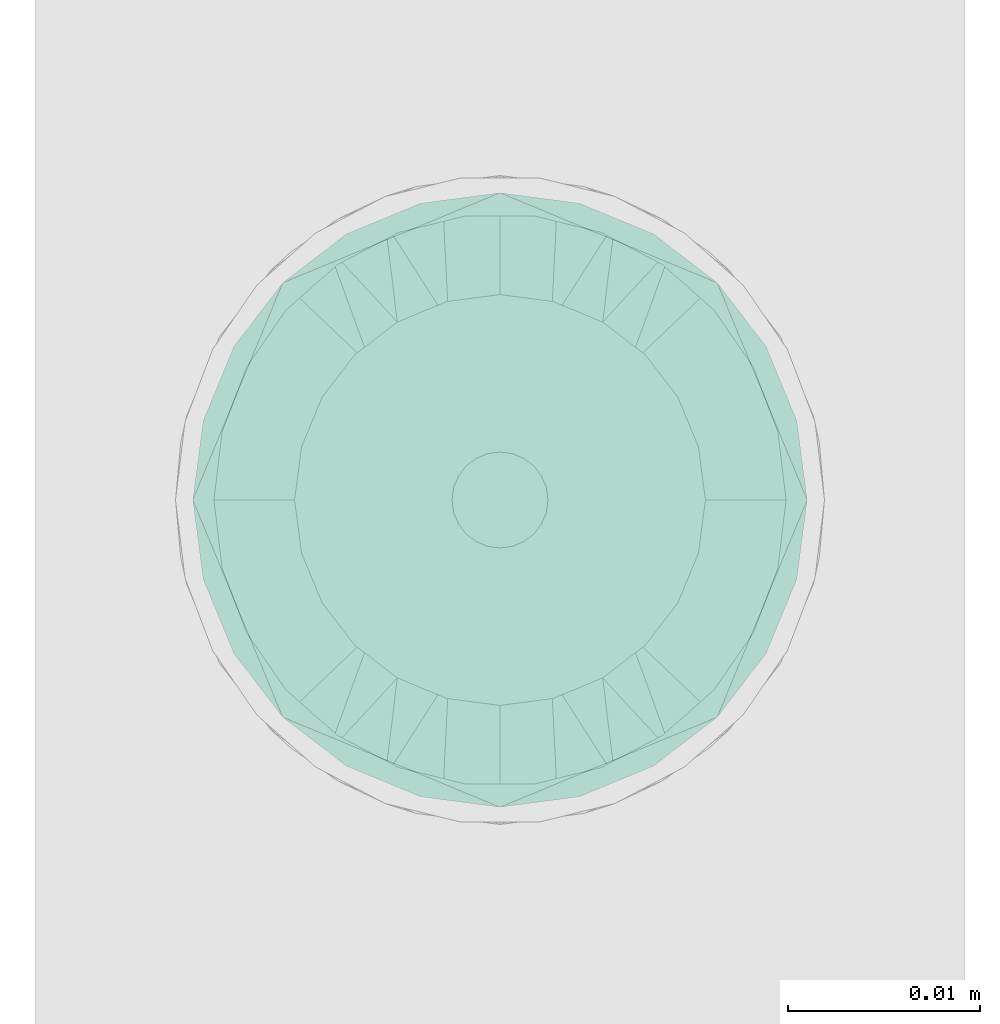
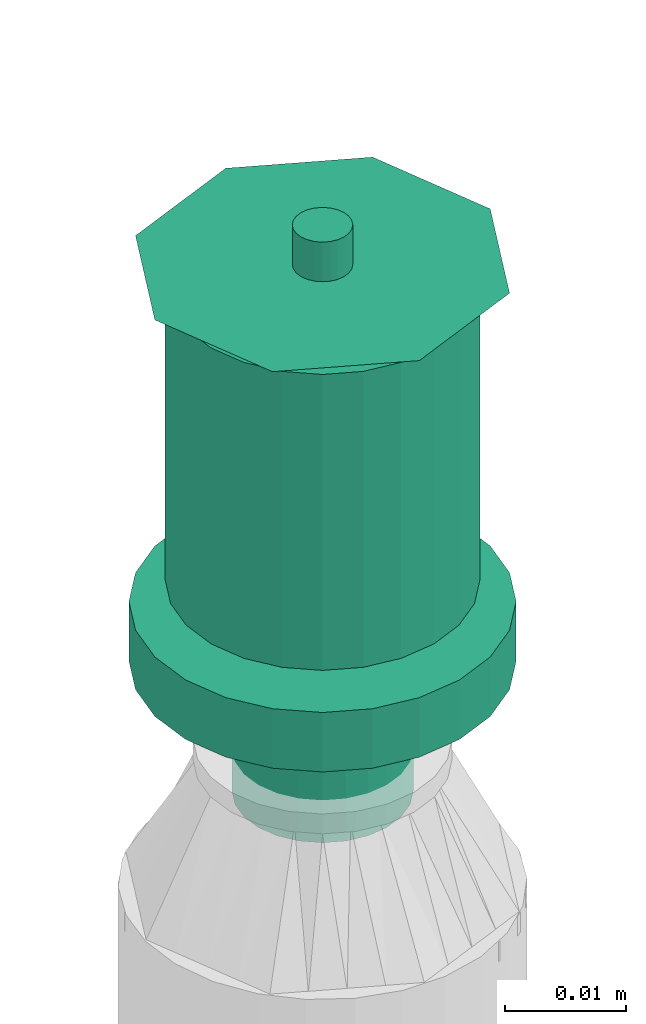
# One storey, part 82 of 157: 1 flow terminal.
"""IFC2X3 building model written with IfcOpenShell, lengths in millimetres."""

from ifc_helpers import new_model, entity, si_unit, converted_unit, derived_unit, direction, frame, origin_with_axes, place, context, subcontext, project, spatial, open_shell, surface_model, source, transform, mapped, type_object, element, save


model = new_model("IFC2X3")

# Units and contexts
model_context = context("Model", 3, precision=0.01, world=frame((0.0, 4.29681676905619e-09, 0.0)), true_north=direction((4.01073788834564e-13, 1.0)))
plan_context = context("Plan", 3, precision=0.01, world=frame((0.0, 4.29681676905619e-09, 0.0)), true_north=direction((4.01073788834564e-13, 1.0)))
body_context = subcontext(model_context, "Body", "Model", "MODEL_VIEW")
ifc_project = project(units=[converted_unit("PLANEANGLEUNIT", "DEGREE", entity("IfcPositiveLengthMeasure", 0.0174532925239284), si_unit("PLANEANGLEUNIT", "RADIAN"), dimensions=[0, 0, 0, 0, 0, 0, 0]), si_unit("AREAUNIT", "SQUARE_METRE"), si_unit("LENGTHUNIT", "METRE", prefix="MILLI"), si_unit("MASSUNIT", "GRAM", prefix="KILO"), si_unit("POWERUNIT", "WATT"), si_unit("PRESSUREUNIT", "PASCAL"), si_unit("FORCEUNIT", "NEWTON", prefix="KILO"), si_unit("ELECTRICCURRENTUNIT", "AMPERE"), si_unit("THERMODYNAMICTEMPERATUREUNIT", "DEGREE_CELSIUS"), si_unit("TIMEUNIT", "SECOND"), si_unit("VOLUMEUNIT", "CUBIC_METRE"), derived_unit("LINEARVELOCITYUNIT", [(si_unit("LENGTHUNIT", "METRE"), 1), (si_unit("TIMEUNIT", "SECOND"), -1)]), derived_unit("VOLUMETRICFLOWRATEUNIT", [(si_unit("VOLUMEUNIT", "CUBIC_METRE"), 1), (si_unit("TIMEUNIT", "SECOND"), -1)]), derived_unit("THERMALTRANSMITTANCEUNIT", [(si_unit("POWERUNIT", "WATT"), 1), (si_unit("THERMODYNAMICTEMPERATUREUNIT", "KELVIN"), -1), (si_unit("AREAUNIT", "SQUARE_METRE"), -1)])], contexts=[model_context, plan_context])

# Site, building, storey
site_placement = place(None, frame((0.0, -4.29681676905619e-09, 0.0), z_axis=(0.0, 0.0, 1.0), x_axis=(1.0, 0.0, 0.0)))
site = spatial("IfcSite", under=ifc_project, at=site_placement, CompositionType="ELEMENT")
building_placement = place(site_placement, frame((0.0, 4.29681676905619e-09, 0.0), z_axis=(0.0, 0.0, 1.0), x_axis=(1.0, 0.0, 0.0)))
building = spatial("IfcBuilding", under=site, at=building_placement, Name="mc-building", CompositionType="ELEMENT")
storey_placement = place(building_placement, frame((0.0, 0.0, 204000.0), z_axis=(0.0, 0.0, 1.0), x_axis=(1.0, 0.0, 0.0)))
storey = spatial("IfcBuildingStorey", under=building, at=storey_placement, Name="Nivå D", CompositionType="ELEMENT", Elevation=204000.0)

# Flow terminal
fire_suppression_terminal_type = type_object("IfcFireSuppressionTerminalType", Name="68DGR-STD-STÅENDE", PredefinedType="NOTDEFINED")
shared_shape = source(origin_with_axes(), body_context, "Body", "SurfaceModel", [
    surface_model("IfcShellBasedSurfaceModel", [(3.36465, -12.55704, 51.0), (6.5, -11.25833, 51.0), (9.19239, -9.19239, 51.0), (12.55704, -3.36465, 51.0), (-11.25833, -6.5, 51.0), (11.25833, -6.5, 51.0), (-13.0, 0.0, 51.0), (0.0, -13.0, 51.0), (-6.5, -11.25833, 51.0), (-3.36465, -12.55704, 51.0), (-9.19239, -9.19239, 51.0), (-12.55704, -3.36465, 51.0), (13.0, 0.0, 51.0), (12.55704, 3.36465, 51.0), (11.25833, 6.5, 51.0), (9.19239, 9.19239, 51.0), (6.5, 11.25833, 51.0), (3.36465, 12.55704, 51.0), (0.0, 13.0, 51.0), (-3.36465, 12.55704, 51.0), (-12.55704, 3.36465, 51.0), (-9.19239, 9.19239, 51.0), (-11.25833, 6.5, 51.0), (-6.5, 11.25833, 51.0), (0.0, 13.0, 21.14766), (3.36465, 12.55704, 21.14766), (6.5, 11.25833, 21.14766), (-3.36465, 12.55704, 21.14766), (9.19239, 9.19239, 21.14766), (11.25833, 6.5, 21.14766), (12.55704, 3.36465, 21.14766), (-12.55704, 3.36465, 21.14766), (-11.25833, -6.5, 21.14766), (-9.19239, 9.19239, 21.14766), (-6.5, 11.25833, 21.14766), (-11.25833, 6.5, 21.14766), (-13.0, 0.0, 21.14766), (12.55704, -3.36465, 21.14766), (9.19239, -9.19239, 21.14766), (11.25833, -6.5, 21.14766), (6.5, -11.25833, 21.14766), (3.36465, -12.55704, 21.14766), (-6.5, -11.25833, 21.14766), (-9.19239, -9.19239, 21.14766), (-12.55704, -3.36465, 21.14766), (0.0, -13.0, 21.14766), (-3.36465, -12.55704, 21.14766), (13.0, 0.0, 21.14766), (7.24444, -1.94114, 0.1), (1.94114, -7.24444, 0.1), (3.75, -6.49519, 0.1), (5.3033, -5.3033, 0.1), (-5.3033, -5.3033, 0.1), (6.49519, -3.75, 0.1), (5.3033, 5.3033, 0.1), (0.0, -7.5, 0.1), (-3.75, -6.49519, 0.1), (-1.94114, -7.24444, 0.1), (-7.24444, -1.94114, 0.1), (-6.49519, -3.75, 0.1), (-7.24444, 1.94114, 0.1), (7.5, 0.0, 0.1), (6.49519, 3.75, 0.1), (-6.49519, 3.75, 0.1), (1.94114, 7.24444, 0.1), (0.0, 7.5, 0.1), (3.75, 6.49519, 0.1), (-7.5, 0.0, 0.1), (-5.3033, 5.3033, 0.1), (-1.94114, 7.24444, 0.1), (-3.75, 6.49519, 0.1), (7.24444, 1.94114, 0.1), (1.94114, 7.24444, -0.1), (-6.49519, 3.75, -0.1), (0.0, 7.5, -0.1), (5.3033, 5.3033, -0.1), (3.75, 6.49519, -0.1), (6.49519, 3.75, -0.1), (7.24444, 1.94114, -0.1), (-1.94114, 7.24444, -0.1), (-5.3033, 5.3033, -0.1), (-3.75, 6.49519, -0.1), (-7.24444, 1.94114, -0.1), (-7.24444, -1.94114, -0.1), (-7.5, 0.0, -0.1), (7.5, 0.0, -0.1), (7.24444, -1.94114, -0.1), (-5.3033, -5.3033, -0.1), (1.94114, -7.24444, -0.1), (6.49519, -3.75, -0.1), (5.3033, -5.3033, -0.1), (3.75, -6.49519, -0.1), (-6.49519, -3.75, -0.1), (-3.75, -6.49519, -0.1), (0.0, -7.5, -0.1), (-1.94114, -7.24444, -0.1), (0.0, -2.5, 51.0), (-2.5, 0.0, 51.0), (0.0, 2.5, 51.0), (2.5, 0.0, 51.0), (0.0, -16.0, 53.0), (11.31371, -11.31371, 53.0), (-11.31371, -11.31371, 53.0), (-16.0, 0.0, 53.0), (16.0, 0.0, 53.0), (11.31371, 11.31371, 53.0), (0.0, 16.0, 53.0), (-11.31371, 11.31371, 53.0), (1.25, -2.16506, 57.0), (0.0, -2.5, 57.0), (0.64705, -2.41481, 57.0), (2.41481, -0.64705, 57.0), (1.76777, -1.76777, 57.0), (-2.41481, -0.64705, 57.0), (-2.5, 0.0, 57.0), (2.16506, -1.25, 57.0), (-1.25, -2.16506, 57.0), (-0.64705, -2.41481, 57.0), (-1.76777, -1.76777, 57.0), (-2.16506, -1.25, 57.0), (2.5, 0.0, 57.0), (2.41481, 0.64705, 57.0), (2.16506, 1.25, 57.0), (1.76777, 1.76777, 57.0), (0.64705, 2.41481, 57.0), (1.25, 2.16506, 57.0), (-1.76777, 1.76777, 57.0), (0.0, 2.5, 57.0), (-2.16506, 1.25, 57.0), (-2.41481, 0.64705, 57.0), (-0.64705, 2.41481, 57.0), (-1.25, 2.16506, 57.0), (1.25, 2.16506, 51.0), (1.76777, 1.76777, 51.0), (1.15, 1.99186, 51.0), (0.59528, 2.22163, 51.0), (0.64705, 2.41481, 51.0), (0.0, 2.3, 51.0), (1.62635, 1.62635, 51.0), (2.41481, 0.64705, 51.0), (2.3, 0.0, 51.0), (2.22163, 0.59528, 51.0), (2.16506, 1.25, 51.0), (1.99186, 1.15, 51.0), (-0.59528, 2.22163, 51.0), (-0.64705, 2.41481, 51.0), (-1.15, 1.99186, 51.0), (-1.76777, 1.76777, 51.0), (-1.25, 2.16506, 51.0), (-1.62635, 1.62635, 51.0), (-1.99186, 1.15, 51.0), (-2.16506, 1.25, 51.0), (-2.22163, 0.59528, 51.0), (-2.41481, 0.64705, 51.0), (-2.3, 0.0, 51.0), (2.41481, -0.64705, 51.0), (2.22163, -0.59528, 51.0), (1.99186, -1.15, 51.0), (2.16506, -1.25, 51.0), (1.62635, -1.62635, 51.0), (1.76777, -1.76777, 51.0), (1.25, -2.16506, 51.0), (1.15, -1.99186, 51.0), (0.59528, -2.22163, 51.0), (0.64705, -2.41481, 51.0), (0.0, -2.3, 51.0), (-2.16506, -1.25, 51.0), (-1.99186, -1.15, 51.0), (-1.76777, -1.76777, 51.0), (-1.62635, -1.62635, 51.0), (-2.41481, -0.64705, 51.0), (-2.22163, -0.59528, 51.0), (-0.59528, -2.22163, 51.0), (-0.64705, -2.41481, 51.0), (-1.15, -1.99186, 51.0), (-1.25, -2.16506, 51.0), (1.62635, -1.62635, 56.8), (1.15, -1.99186, 56.8), (0.59528, -2.22163, 56.8), (0.0, -2.3, 56.8), (2.22163, 0.59528, 56.8), (1.99186, -1.15, 56.8), (2.22163, -0.59528, 56.8), (-0.59528, -2.22163, 56.8), (-1.15, -1.99186, 56.8), (-1.62635, -1.62635, 56.8), (-1.99186, -1.15, 56.8), (-2.22163, -0.59528, 56.8), (-1.99186, 1.15, 56.8), (2.3, 0.0, 56.8), (1.62635, 1.62635, 56.8), (1.99186, 1.15, 56.8), (1.15, 1.99186, 56.8), (0.0, 2.3, 56.8), (0.59528, 2.22163, 56.8), (-2.22163, 0.59528, 56.8), (-2.3, 0.0, 56.8), (-1.15, 1.99186, 56.8), (-0.59528, 2.22163, 56.8), (-1.62635, 1.62635, 56.8), (4.1411, -15.45481, 19.0), (8.0, -13.85641, 19.0), (11.31371, -11.31371, 19.0), (-8.0, -13.85641, 19.0), (15.45481, -4.1411, 19.0), (16.0, 0.0, 19.0), (13.85641, -8.0, 19.0), (0.0, -16.0, 19.0), (-4.1411, -15.45481, 19.0), (-13.85641, -8.0, 19.0), (-11.31371, -11.31371, 19.0), (-15.45481, -4.1411, 19.0), (15.45481, 4.1411, 19.0), (13.85641, 8.0, 19.0), (11.31371, 11.31371, 19.0), (-4.1411, 15.45481, 19.0), (8.0, 13.85641, 19.0), (4.1411, 15.45481, 19.0), (0.0, 16.0, 19.0), (-13.85641, 8.0, 19.0), (-15.45481, 4.1411, 19.0), (-16.0, 0.0, 19.0), (-11.31371, 11.31371, 19.0), (-8.0, 13.85641, 19.0), (0.0, 16.0, 13.0), (4.1411, 15.45481, 13.0), (8.0, 13.85641, 13.0), (-4.1411, 15.45481, 13.0), (11.31371, 11.31371, 13.0), (13.85641, 8.0, 13.0), (15.45481, 4.1411, 13.0), (-15.45481, -4.1411, 13.0), (-11.31371, 11.31371, 13.0), (-8.0, 13.85641, 13.0), (-13.85641, 8.0, 13.0), (-15.45481, 4.1411, 13.0), (-16.0, 0.0, 13.0), (4.1411, -15.45481, 13.0), (16.0, 0.0, 13.0), (15.45481, -4.1411, 13.0), (13.85641, -8.0, 13.0), (11.31371, -11.31371, 13.0), (8.0, -13.85641, 13.0), (-8.0, -13.85641, 13.0), (-13.85641, -8.0, 13.0), (-11.31371, -11.31371, 13.0), (0.0, -16.0, 13.0), (-4.1411, -15.45481, 13.0), (7.24444, -1.94114, 13.0), (1.94114, -7.24444, 13.0), (3.75, -6.49519, 13.0), (5.3033, -5.3033, 13.0), (-5.3033, -5.3033, 13.0), (6.49519, -3.75, 13.0), (5.3033, 5.3033, 13.0), (0.0, -7.5, 13.0), (-3.75, -6.49519, 13.0), (-1.94114, -7.24444, 13.0), (-7.24444, -1.94114, 13.0), (-6.49519, -3.75, 13.0), (-7.24444, 1.94114, 13.0), (7.5, 0.0, 13.0), (6.49519, 3.75, 13.0), (-6.49519, 3.75, 13.0), (1.94114, 7.24444, 13.0), (0.0, 7.5, 13.0), (3.75, 6.49519, 13.0), (-7.5, 0.0, 13.0), (-5.3033, 5.3033, 13.0), (-1.94114, 7.24444, 13.0), (-3.75, 6.49519, 13.0), (7.24444, 1.94114, 13.0), (3.75, 6.49519, 0.0), (5.3033, 5.3033, 0.0), (3.65, 6.32199, 0.0), (1.88938, 7.05126, 0.0), (0.0, 7.3, 0.0), (1.94114, 7.24444, 0.0), (0.0, 7.5, 0.0), (5.16188, 5.16188, 0.0), (7.24444, 1.94114, 0.0), (7.3, 0.0, 0.0), (7.05126, 1.88938, 0.0), (7.5, 0.0, 0.0), (6.49519, 3.75, 0.0), (6.32199, 3.65, 0.0), (-1.88938, 7.05126, 0.0), (-1.94114, 7.24444, 0.0), (-3.65, 6.32199, 0.0), (-5.3033, 5.3033, 0.0), (-3.75, 6.49519, 0.0), (-5.16188, 5.16188, 0.0), (-6.32199, 3.65, 0.0), (-6.49519, 3.75, 0.0), (-7.05126, 1.88938, 0.0), (-7.24444, 1.94114, 0.0), (-7.3, 0.0, 0.0), (-7.5, 0.0, 0.0), (7.24444, -1.94114, 0.0), (7.05126, -1.88938, 0.0), (6.32199, -3.65, 0.0), (6.49519, -3.75, 0.0), (5.16188, -5.16188, 0.0), (5.3033, -5.3033, 0.0), (3.75, -6.49519, 0.0), (3.65, -6.32199, 0.0), (1.88938, -7.05126, 0.0), (1.94114, -7.24444, 0.0), (0.0, -7.3, 0.0), (0.0, -7.5, 0.0), (-6.49519, -3.75, 0.0), (-6.32199, -3.65, 0.0), (-5.3033, -5.3033, 0.0), (-5.16188, -5.16188, 0.0), (-7.24444, -1.94114, 0.0), (-7.05126, -1.88938, 0.0), (-1.88938, -7.05126, 0.0), (-1.94114, -7.24444, 0.0), (-3.65, -6.32199, 0.0), (-3.75, -6.49519, 0.0), (1.88938, -7.05126, 12.8), (0.0, -7.3, 12.8), (3.65, -6.32199, 12.8), (5.16188, -5.16188, 12.8), (6.32199, -3.65, 12.8), (7.05126, 1.88938, 12.8), (7.05126, -1.88938, 12.8), (-5.16188, -5.16188, 12.8), (-1.88938, -7.05126, 12.8), (-3.65, -6.32199, 12.8), (-6.32199, -3.65, 12.8), (-7.05126, -1.88938, 12.8), (0.0, 7.3, 12.8), (7.3, 0.0, 12.8), (6.32199, 3.65, 12.8), (5.16188, 5.16188, 12.8), (3.65, 6.32199, 12.8), (1.88938, 7.05126, 12.8), (-6.32199, 3.65, 12.8), (-7.05126, 1.88938, 12.8), (-7.3, 0.0, 12.8), (-3.65, 6.32199, 12.8), (-1.88938, 7.05126, 12.8), (-5.16188, 5.16188, 12.8)], [open_shell([[[0, 1, 2]], [[0, 2, 3]], [[0, 3, 4]], [[3, 2, 5]], [[6, 4, 3]], [[7, 8, 9]], [[7, 0, 8]], [[8, 4, 10]], [[0, 4, 8]], [[4, 6, 11]], [[6, 3, 12]], [[13, 14, 15]], [[6, 13, 15]], [[16, 17, 18]], [[15, 16, 19]], [[18, 19, 16]], [[20, 21, 22]], [[20, 6, 15]], [[21, 19, 23]], [[19, 21, 20]], [[15, 19, 20]], [[13, 6, 12]], [[24, 25, 26]], [[27, 24, 26]], [[28, 29, 30]], [[26, 28, 31]], [[28, 32, 31]], [[27, 33, 34]], [[33, 27, 31]], [[33, 31, 35]], [[27, 26, 31]], [[31, 32, 36]], [[32, 28, 30]], [[32, 30, 37]], [[38, 37, 39]], [[38, 40, 41]], [[38, 41, 37]], [[32, 37, 41]], [[32, 42, 43]], [[44, 36, 32]], [[42, 45, 46]], [[42, 32, 41]], [[45, 42, 41]], [[30, 47, 37]], [[4, 32, 43]], [[8, 42, 46]], [[43, 42, 10]], [[9, 46, 45]], [[36, 11, 6]], [[11, 36, 44]], [[11, 44, 4]], [[44, 32, 4]], [[43, 10, 4]], [[8, 10, 42]], [[46, 9, 8]], [[45, 7, 9]], [[0, 41, 40]], [[38, 1, 40]], [[5, 39, 37]], [[38, 39, 2]], [[3, 37, 47]], [[41, 0, 7]], [[40, 1, 0]], [[38, 2, 1]], [[39, 5, 2]], [[3, 5, 37]], [[47, 12, 3]], [[41, 7, 45]], [[30, 13, 47]], [[29, 14, 30]], [[25, 24, 17]], [[15, 29, 28]], [[30, 14, 13]], [[13, 12, 47]], [[16, 26, 17]], [[16, 15, 28]], [[26, 25, 17]], [[15, 14, 29]], [[28, 26, 16]], [[24, 18, 17]], [[19, 27, 34]], [[33, 23, 34]], [[22, 35, 31]], [[33, 35, 21]], [[20, 31, 36]], [[27, 19, 18]], [[34, 23, 19]], [[33, 21, 23]], [[35, 22, 21]], [[20, 22, 31]], [[36, 6, 20]], [[27, 18, 24]], [[48, 49, 50]], [[48, 50, 51]], [[49, 48, 52]], [[48, 51, 53]], [[54, 52, 48]], [[55, 56, 57]], [[56, 55, 52]], [[52, 58, 59]], [[52, 55, 49]], [[52, 60, 58]], [[54, 48, 61]], [[62, 54, 61]], [[54, 63, 52]], [[64, 65, 54]], [[64, 54, 66]], [[63, 54, 65]], [[63, 60, 52]], [[67, 58, 60]], [[68, 69, 70]], [[69, 68, 63]], [[69, 63, 65]], [[71, 62, 61]], [[72, 73, 74]], [[75, 72, 76]], [[75, 77, 78]], [[72, 75, 73]], [[78, 73, 75]], [[79, 80, 81]], [[80, 79, 73]], [[74, 73, 79]], [[78, 82, 73]], [[82, 83, 84]], [[82, 78, 85]], [[86, 87, 85]], [[88, 86, 89]], [[90, 91, 88]], [[90, 88, 89]], [[87, 86, 88]], [[83, 87, 92]], [[83, 85, 87]], [[93, 94, 95]], [[94, 93, 87]], [[88, 94, 87]], [[85, 83, 82]], [[83, 58, 84]], [[92, 59, 83]], [[56, 87, 93]], [[92, 87, 52]], [[57, 93, 95]], [[83, 59, 58]], [[58, 67, 84]], [[57, 56, 93]], [[52, 87, 56]], [[52, 59, 92]], [[55, 57, 95]], [[95, 94, 55]], [[88, 49, 94]], [[91, 50, 88]], [[53, 90, 89]], [[91, 90, 51]], [[48, 89, 86]], [[91, 51, 50]], [[50, 49, 88]], [[61, 48, 86]], [[53, 89, 48]], [[53, 51, 90]], [[85, 61, 86]], [[94, 49, 55]], [[78, 71, 85]], [[77, 62, 78]], [[66, 75, 76]], [[77, 75, 54]], [[64, 76, 72]], [[78, 62, 71]], [[71, 61, 85]], [[64, 66, 76]], [[54, 75, 66]], [[54, 62, 77]], [[65, 64, 72]], [[72, 74, 65]], [[79, 69, 74]], [[81, 70, 79]], [[63, 80, 73]], [[81, 80, 68]], [[60, 73, 82]], [[81, 68, 70]], [[70, 69, 79]], [[67, 60, 82]], [[63, 73, 60]], [[63, 68, 80]], [[84, 67, 82]], [[74, 69, 65]], [[96, 97, 98]], [[98, 99, 96]], [[100, 101, 102]], [[103, 102, 101]], [[101, 104, 103]], [[104, 105, 106]], [[107, 103, 106]], [[106, 103, 104]], [[99, 98, 105]], [[105, 104, 99]], [[98, 106, 105]], [[98, 107, 106]], [[107, 98, 97]], [[103, 107, 97]], [[97, 96, 102]], [[102, 103, 97]], [[96, 100, 102]], [[96, 101, 100]], [[101, 96, 99]], [[104, 101, 99]], [[108, 109, 110]], [[111, 108, 112]], [[113, 108, 114]], [[111, 112, 115]], [[108, 111, 114]], [[109, 116, 117]], [[116, 109, 118]], [[118, 113, 119]], [[118, 109, 108]], [[108, 113, 118]], [[111, 120, 114]], [[121, 122, 123]], [[114, 121, 123]], [[114, 123, 124]], [[124, 123, 125]], [[126, 124, 127]], [[124, 128, 129]], [[129, 114, 124]], [[126, 130, 131]], [[128, 124, 126]], [[130, 126, 127]], [[121, 114, 120]], [[132, 133, 134]], [[132, 134, 135]], [[136, 135, 137]], [[135, 136, 132]], [[136, 137, 98]], [[134, 133, 138]], [[139, 140, 141]], [[140, 139, 99]], [[139, 141, 142]], [[138, 142, 143]], [[142, 138, 133]], [[143, 142, 141]], [[98, 144, 145]], [[98, 137, 144]], [[145, 144, 146]], [[147, 148, 149]], [[146, 148, 145]], [[149, 148, 146]], [[150, 151, 147]], [[151, 150, 152]], [[150, 147, 149]], [[153, 152, 154]], [[152, 153, 151]], [[153, 154, 97]], [[99, 155, 156]], [[156, 155, 157]], [[157, 158, 159]], [[158, 157, 155]], [[159, 158, 160]], [[160, 161, 162]], [[162, 161, 163]], [[163, 164, 165]], [[164, 163, 161]], [[165, 164, 96]], [[162, 159, 160]], [[166, 167, 168]], [[168, 167, 169]], [[167, 166, 170]], [[97, 171, 170]], [[170, 171, 167]], [[97, 154, 171]], [[172, 96, 173]], [[172, 173, 174]], [[169, 175, 168]], [[175, 169, 174]], [[175, 174, 173]], [[165, 96, 172]], [[156, 140, 99]], [[170, 113, 97]], [[166, 119, 170]], [[116, 168, 175]], [[166, 168, 118]], [[117, 175, 173]], [[170, 119, 113]], [[113, 114, 97]], [[117, 116, 175]], [[118, 168, 116]], [[118, 119, 166]], [[109, 117, 173]], [[173, 96, 109]], [[164, 110, 96]], [[161, 108, 164]], [[115, 160, 158]], [[161, 160, 112]], [[111, 158, 155]], [[161, 112, 108]], [[108, 110, 164]], [[120, 111, 155]], [[115, 158, 111]], [[115, 112, 160]], [[99, 120, 155]], [[96, 110, 109]], [[139, 121, 99]], [[142, 122, 139]], [[125, 133, 132]], [[142, 133, 123]], [[124, 132, 136]], [[139, 122, 121]], [[121, 120, 99]], [[124, 125, 132]], [[123, 133, 125]], [[123, 122, 142]], [[127, 124, 136]], [[136, 98, 127]], [[145, 130, 98]], [[148, 131, 145]], [[128, 147, 151]], [[148, 147, 126]], [[129, 151, 153]], [[148, 126, 131]], [[131, 130, 145]], [[114, 129, 153]], [[128, 151, 129]], [[128, 126, 147]], [[97, 114, 153]], [[98, 130, 127]], [[176, 177, 178]], [[176, 178, 179]], [[180, 176, 179]], [[181, 176, 182]], [[180, 182, 176]], [[183, 184, 179]], [[185, 179, 184]], [[186, 187, 185]], [[185, 187, 188]], [[179, 185, 188]], [[189, 182, 180]], [[190, 191, 180]], [[192, 190, 180]], [[193, 194, 192]], [[180, 193, 192]], [[188, 193, 180]], [[195, 188, 196]], [[196, 188, 187]], [[197, 198, 199]], [[188, 199, 198]], [[188, 198, 193]], [[180, 179, 188]], [[154, 187, 171]], [[171, 186, 167]], [[174, 169, 184]], [[185, 169, 167]], [[172, 174, 183]], [[187, 186, 171]], [[154, 196, 187]], [[174, 184, 183]], [[184, 169, 185]], [[167, 186, 185]], [[172, 183, 179]], [[179, 165, 172]], [[165, 178, 163]], [[163, 177, 162]], [[157, 159, 181]], [[176, 159, 162]], [[156, 157, 182]], [[177, 176, 162]], [[163, 178, 177]], [[156, 182, 189]], [[182, 157, 181]], [[159, 176, 181]], [[156, 189, 140]], [[179, 178, 165]], [[140, 180, 141]], [[141, 191, 143]], [[134, 138, 192]], [[190, 138, 143]], [[135, 134, 194]], [[180, 191, 141]], [[140, 189, 180]], [[134, 192, 194]], [[192, 138, 190]], [[143, 191, 190]], [[135, 194, 193]], [[193, 137, 135]], [[137, 198, 144]], [[144, 197, 146]], [[150, 149, 188]], [[199, 149, 146]], [[152, 150, 195]], [[197, 199, 146]], [[144, 198, 197]], [[152, 195, 196]], [[195, 150, 188]], [[149, 199, 188]], [[152, 196, 154]], [[193, 198, 137]], [[200, 201, 202]], [[203, 200, 202]], [[204, 205, 202]], [[204, 202, 206]], [[203, 202, 205]], [[207, 203, 208]], [[207, 200, 203]], [[203, 209, 210]], [[209, 203, 211]], [[205, 211, 203]], [[205, 212, 211]], [[212, 213, 214]], [[215, 212, 214]], [[216, 217, 218]], [[214, 216, 215]], [[218, 215, 216]], [[211, 219, 220]], [[221, 211, 220]], [[222, 215, 223]], [[215, 222, 219]], [[219, 211, 215]], [[211, 212, 215]], [[224, 225, 226]], [[227, 224, 226]], [[228, 229, 230]], [[227, 226, 228]], [[227, 228, 231]], [[227, 232, 233]], [[232, 227, 234]], [[234, 231, 235]], [[231, 234, 227]], [[235, 231, 236]], [[228, 230, 231]], [[237, 238, 239]], [[237, 239, 240]], [[241, 242, 237]], [[241, 237, 240]], [[238, 237, 243]], [[244, 243, 245]], [[243, 244, 231]], [[243, 246, 247]], [[243, 231, 238]], [[237, 246, 243]], [[238, 231, 230]], [[231, 211, 236]], [[244, 209, 231]], [[203, 245, 243]], [[244, 245, 210]], [[208, 243, 247]], [[231, 209, 211]], [[211, 221, 236]], [[208, 203, 243]], [[210, 245, 203]], [[210, 209, 244]], [[207, 208, 247]], [[247, 246, 207]], [[237, 200, 246]], [[242, 201, 237]], [[206, 241, 240]], [[242, 241, 202]], [[204, 240, 239]], [[242, 202, 201]], [[201, 200, 237]], [[205, 204, 239]], [[206, 240, 204]], [[206, 202, 241]], [[238, 205, 239]], [[246, 200, 207]], [[230, 212, 238]], [[229, 213, 230]], [[216, 228, 226]], [[229, 228, 214]], [[217, 226, 225]], [[230, 213, 212]], [[212, 205, 238]], [[217, 216, 226]], [[214, 228, 216]], [[214, 213, 229]], [[218, 217, 225]], [[225, 224, 218]], [[227, 215, 224]], [[233, 223, 227]], [[219, 232, 234]], [[233, 232, 222]], [[220, 234, 235]], [[233, 222, 223]], [[223, 215, 227]], [[221, 220, 235]], [[219, 234, 220]], [[219, 222, 232]], [[236, 221, 235]], [[224, 215, 218]], [[248, 249, 250]], [[248, 250, 251]], [[249, 248, 252]], [[248, 251, 253]], [[254, 252, 248]], [[255, 256, 257]], [[256, 255, 252]], [[252, 258, 259]], [[252, 255, 249]], [[252, 260, 258]], [[254, 248, 261]], [[262, 254, 261]], [[254, 263, 252]], [[264, 265, 254]], [[264, 254, 266]], [[263, 254, 265]], [[263, 260, 252]], [[267, 258, 260]], [[268, 269, 270]], [[269, 268, 263]], [[269, 263, 265]], [[271, 262, 261]], [[272, 273, 274]], [[272, 274, 275]], [[276, 277, 275]], [[277, 276, 278]], [[275, 277, 272]], [[274, 273, 279]], [[280, 281, 282]], [[281, 280, 283]], [[280, 282, 284]], [[279, 284, 285]], [[284, 279, 273]], [[285, 284, 282]], [[278, 286, 287]], [[287, 286, 288]], [[289, 290, 291]], [[288, 290, 287]], [[288, 291, 290]], [[278, 276, 286]], [[292, 293, 289]], [[293, 292, 294]], [[292, 289, 291]], [[295, 294, 296]], [[294, 295, 293]], [[295, 296, 297]], [[283, 298, 299]], [[299, 298, 300]], [[300, 301, 302]], [[301, 300, 298]], [[302, 301, 303]], [[303, 304, 305]], [[305, 304, 306]], [[306, 307, 308]], [[307, 306, 304]], [[308, 307, 309]], [[305, 302, 303]], [[310, 311, 312]], [[312, 311, 313]], [[311, 310, 314]], [[297, 315, 314]], [[314, 315, 311]], [[297, 296, 315]], [[316, 309, 317]], [[316, 317, 318]], [[313, 319, 312]], [[313, 318, 319]], [[319, 318, 317]], [[308, 309, 316]], [[299, 281, 283]], [[314, 258, 297]], [[310, 259, 314]], [[256, 312, 319]], [[310, 312, 252]], [[257, 319, 317]], [[314, 259, 258]], [[258, 267, 297]], [[257, 256, 319]], [[252, 312, 256]], [[252, 259, 310]], [[255, 257, 317]], [[317, 309, 255]], [[307, 249, 309]], [[304, 250, 307]], [[253, 303, 301]], [[304, 303, 251]], [[248, 301, 298]], [[304, 251, 250]], [[250, 249, 307]], [[261, 248, 298]], [[253, 301, 248]], [[253, 251, 303]], [[283, 261, 298]], [[309, 249, 255]], [[280, 271, 283]], [[284, 262, 280]], [[266, 273, 272]], [[284, 273, 254]], [[264, 272, 277]], [[280, 262, 271]], [[271, 261, 283]], [[264, 266, 272]], [[254, 273, 266]], [[254, 262, 284]], [[265, 264, 277]], [[277, 278, 265]], [[287, 269, 278]], [[290, 270, 287]], [[263, 289, 293]], [[290, 289, 268]], [[260, 293, 295]], [[290, 268, 270]], [[270, 269, 287]], [[267, 260, 295]], [[263, 293, 260]], [[263, 268, 289]], [[297, 267, 295]], [[278, 269, 265]], [[320, 321, 322]], [[323, 322, 324]], [[325, 326, 322]], [[324, 322, 326]], [[322, 327, 325]], [[328, 329, 321]], [[327, 321, 329]], [[330, 331, 327]], [[322, 321, 327]], [[331, 332, 327]], [[326, 325, 333]], [[334, 325, 332]], [[335, 334, 336]], [[332, 337, 336]], [[334, 332, 336]], [[331, 338, 332]], [[339, 338, 340]], [[340, 338, 331]], [[341, 342, 343]], [[332, 338, 343]], [[332, 343, 342]], [[332, 325, 327]], [[296, 331, 315]], [[315, 330, 311]], [[318, 313, 329]], [[327, 313, 311]], [[316, 318, 328]], [[331, 330, 315]], [[296, 340, 331]], [[318, 329, 328]], [[329, 313, 327]], [[311, 330, 327]], [[316, 328, 321]], [[321, 308, 316]], [[308, 320, 306]], [[306, 322, 305]], [[300, 302, 324]], [[323, 302, 305]], [[299, 300, 326]], [[322, 323, 305]], [[306, 320, 322]], [[299, 326, 333]], [[326, 300, 324]], [[302, 323, 324]], [[299, 333, 281]], [[321, 320, 308]], [[281, 325, 282]], [[282, 334, 285]], [[274, 279, 336]], [[335, 279, 285]], [[275, 274, 337]], [[325, 334, 282]], [[281, 333, 325]], [[274, 336, 337]], [[336, 279, 335]], [[285, 334, 335]], [[275, 337, 332]], [[332, 276, 275]], [[276, 342, 286]], [[286, 341, 288]], [[292, 291, 338]], [[343, 291, 288]], [[294, 292, 339]], [[341, 343, 288]], [[286, 342, 341]], [[294, 339, 340]], [[339, 292, 338]], [[291, 343, 338]], [[294, 340, 296]], [[332, 342, 276]]])]),
])
flow_terminal_placement = place(storey_placement, frame((521635.35, 413913.20018, 3169.5), z_axis=(0.0, 0.0, 1.0), x_axis=(1.0, 0.0, 0.0)))
element("IfcFlowTerminal", 1, at=flow_terminal_placement, inside=storey, type_object=fire_suppression_terminal_type, Name="68DGR-STD-STÅENDE", context=body_context, shape_type="MappedRepresentation", body=[
    mapped(shared_shape, transform((0.0, 0.0, 0.0), scale=1.0)),
])

save(model, "model.ifc")
